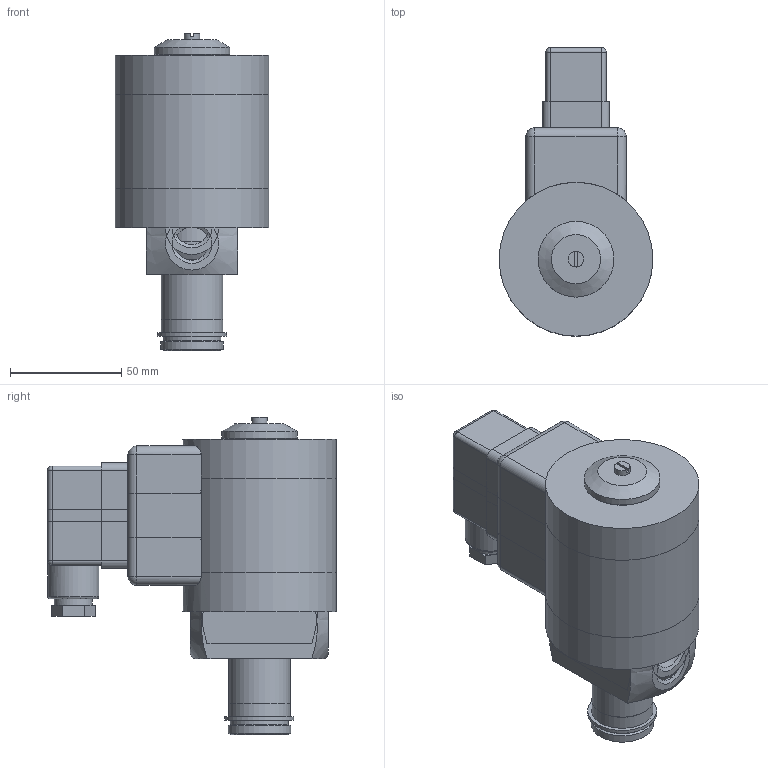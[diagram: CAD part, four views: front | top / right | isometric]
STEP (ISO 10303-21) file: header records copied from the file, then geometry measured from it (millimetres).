
FILE_DESCRIPTION( ( 'Unknown' ), '1' );
FILE_NAME( 'D:/Wyroby/Widoki gabarytowe/Zawory ZEA/ZEA_10/ZEA_10.stp', 'Unknown', ( 'Unknown' ), ( 'Unknown' ), 'XStep 1.0', 'Unknown', ' ' );
FILE_SCHEMA( ( 'CONFIG_CONTROL_DESIGN' ) );
Length unit declared in the file: millimetre
Products named in the file (17): Assem1; Wa_167_01_00; Wa_007_01_02; Wa_007_01_02_003k1; Wa_007_01_02_002k1; Wa_007_01_02_001k1; Wa_136_01_00_005; Wa_167_01_00_002; Wa_141_04_00_009; Wa_007_01_00_007; W-008 wkrêt m4x12; Wa_167_01_00_006; Wa_167_01_00_005; Wa_007_01_00_002; Wa_163_01_03_008彡i從i黎a19; Cewka_25
Bounding box: 69 x 129.5 x 142.3 mm (x, y, z)
Volume: 912705.7 mm3; surface area: 212384.7 mm2
Topology: 44 solids, 44 shells, 644 faces, 1278 edges, 784 vertices
Faces by surface type: plane 274, cylinder 214, cone 123, sphere 16, torus 14, bspline 3
Full cylindrical faces by diameter (mm): 1.6 x3, 3.242 x4, 4 x3, 4.2 x3, 7 x3, 10 x6, 11.5 x3, 12 x2, 13 x6, 14.95 x6, 15 x6, 17 x2, 18 x6, 22 x3, 22.7 x16, 23 x2, 24 x8, 24.8 x4, 24.917 x8, 25 x4, 26 x20, 26.917 x3, 27.5 x14, 28 x7, 31 x4, 32 x3, 32.5 x3, 34 x3, 69 x2
Entity records: 8010 total; most frequent: CARTESIAN_POINT 3020, DIRECTION 968, ORIENTED_EDGE 652, AXIS2_PLACEMENT_3D 427, EDGE_LOOP 350, EDGE_CURVE 326, FACE_OUTER_BOUND 272, VERTEX_POINT 253
